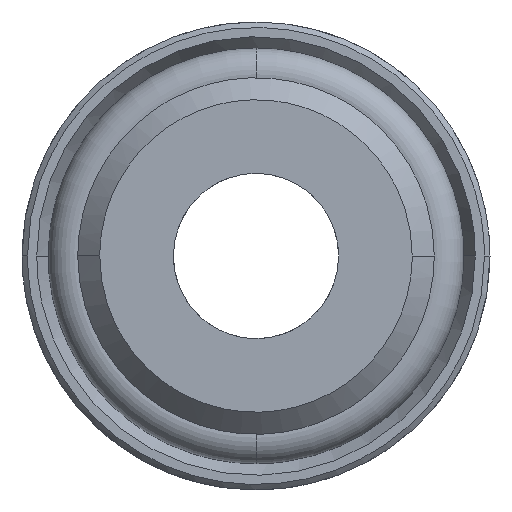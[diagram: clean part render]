
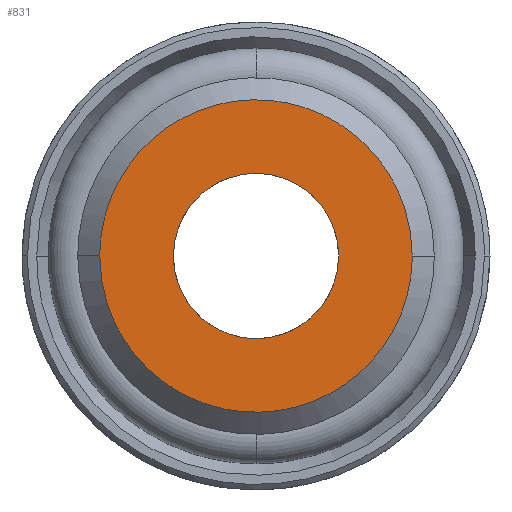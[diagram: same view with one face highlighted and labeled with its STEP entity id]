
A CAD part, front view. The second image highlights one B-rep face of the part: STEP entity #831.
In plain terms, the highlighted planar face has unit normal (0, -1, 0).
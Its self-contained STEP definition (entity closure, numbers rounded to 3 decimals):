
#16 = CARTESIAN_POINT ( 'NONE',  ( -2.619, 0., -1.515 ) ) ;
#26 = CARTESIAN_POINT ( 'NONE',  ( 3.486, 0., -4.539 ) ) ;
#39 = EDGE_CURVE ( 'NONE', #1634, #122, #1527, .T. ) ;
#98 = ORIENTED_EDGE ( 'NONE', *, *, #1683, .T. ) ;
#105 = CARTESIAN_POINT ( 'NONE',  ( -5.528, 0., 1.484 ) ) ;
#114 = CARTESIAN_POINT ( 'NONE',  ( -3., 0., 0. ) ) ;
#117 = CARTESIAN_POINT ( 'NONE',  ( -2.924, 0., 0.781 ) ) ;
#122 = VERTEX_POINT ( 'NONE', #2867 ) ;
#181 = CARTESIAN_POINT ( 'NONE',  ( -1.515, 0., 2.619 ) ) ;
#231 = CARTESIAN_POINT ( 'NONE',  ( -0.397, 0., -3. ) ) ;
#235 = CARTESIAN_POINT ( 'NONE',  ( 1.84, 0., 2.402 ) ) ;
#244 = CARTESIAN_POINT ( 'NONE',  ( 5.528, 0., 1.484 ) ) ;
#269 = CARTESIAN_POINT ( 'NONE',  ( 3., 0., -0.397 ) ) ;
#278 = CARTESIAN_POINT ( 'NONE',  ( 1.484, 0., -5.528 ) ) ;
#294 = CARTESIAN_POINT ( 'NONE',  ( 4.958, 0., -2.86 ) ) ;
#323 = CARTESIAN_POINT ( 'NONE',  ( 0.745, 0., 5.675 ) ) ;
#337 = CARTESIAN_POINT ( 'NONE',  ( -5.675, 0., 0.746 ) ) ;
#355 = CARTESIAN_POINT ( 'NONE',  ( -5.675, 0., 0. ) ) ;
#471 = CARTESIAN_POINT ( 'NONE',  ( -4.958, 0., -2.86 ) ) ;
#477 = CARTESIAN_POINT ( 'NONE',  ( -1.84, 0., -2.402 ) ) ;
#507 = CARTESIAN_POINT ( 'NONE',  ( 2.86, 0., 4.958 ) ) ;
#510 = CARTESIAN_POINT ( 'NONE',  ( -0.781, 0., -2.924 ) ) ;
#551 = CARTESIAN_POINT ( 'NONE',  ( 5.528, 0., -1.484 ) ) ;
#608 = CARTESIAN_POINT ( 'NONE',  ( -3., 0., 0. ) ) ;
#646 = CARTESIAN_POINT ( 'NONE',  ( -4.338, 0., 0. ) ) ;
#675 = CARTESIAN_POINT ( 'NONE',  ( 2.619, 0., 1.515 ) ) ;
#681 = FACE_OUTER_BOUND ( 'NONE', #3015, .T. ) ;
#691 = CARTESIAN_POINT ( 'NONE',  ( 3., 0., 0. ) ) ;
#697 = EDGE_CURVE ( 'NONE', #1249, #1024, #939, .T. ) ;
#705 = CARTESIAN_POINT ( 'NONE',  ( 1.515, 0., -2.619 ) ) ;
#717 = CARTESIAN_POINT ( 'NONE',  ( -5.675, 0., 0. ) ) ;
#724 = CARTESIAN_POINT ( 'NONE',  ( 2.402, 0., -1.84 ) ) ;
#742 = CARTESIAN_POINT ( 'NONE',  ( -3., 0., 0. ) ) ;
#831 = ADVANCED_FACE ( 'NONE', ( #1679, #681 ), #1920, .T. ) ;
#874 = CARTESIAN_POINT ( 'NONE',  ( -3.486, 0., 4.539 ) ) ;
#935 = CARTESIAN_POINT ( 'NONE',  ( -0.781, 0., 2.924 ) ) ;
#939 = B_SPLINE_CURVE_WITH_KNOTS ( 'NONE', 3,
 ( #2727, #2481, #244, #1241, #996, #1752, #507, #2498, #323, #1580, #1596, #1389, #874, #2587, #2856, #105, #337, #355 ),
 .UNSPECIFIED., .F., .F.,
 ( 4, 2, 2, 2, 2, 2, 2, 2, 4 ),
 ( 0.5, 0.563, 0.625, 0.688, 0.75, 0.813, 0.875, 0.938, 1. ),
 .UNSPECIFIED. ) ;
#952 = CARTESIAN_POINT ( 'NONE',  ( 1.515, 0., 2.62 ) ) ;
#967 = CARTESIAN_POINT ( 'NONE',  ( 0.781, 0., 2.924 ) ) ;
#996 = CARTESIAN_POINT ( 'NONE',  ( 4.539, 0., 3.486 ) ) ;
#1010 = CARTESIAN_POINT ( 'NONE',  ( -5.675, 0., 0. ) ) ;
#1024 = VERTEX_POINT ( 'NONE', #1010 ) ;
#1025 = CARTESIAN_POINT ( 'NONE',  ( 4.539, 0., -3.486 ) ) ;
#1125 = ORIENTED_EDGE ( 'NONE', *, *, #697, .T. ) ;
#1201 = CARTESIAN_POINT ( 'NONE',  ( 0.397, 0., 3. ) ) ;
#1241 = CARTESIAN_POINT ( 'NONE',  ( 4.958, 0., 2.86 ) ) ;
#1249 = VERTEX_POINT ( 'NONE', #2010 ) ;
#1266 = CARTESIAN_POINT ( 'NONE',  ( 0.397, 0., -3. ) ) ;
#1286 = ORIENTED_EDGE ( 'NONE', *, *, #3079, .T. ) ;
#1389 = CARTESIAN_POINT ( 'NONE',  ( -2.86, 0., 4.958 ) ) ;
#1498 = CARTESIAN_POINT ( 'NONE',  ( -5.675, 0., -0.745 ) ) ;
#1504 = CARTESIAN_POINT ( 'NONE',  ( -2.924, 0., -0.781 ) ) ;
#1527 = B_SPLINE_CURVE_WITH_KNOTS ( 'NONE', 3,
 ( #608, #2358, #117, #2965, #2195, #2471, #181, #935, #1707, #1201, #967, #952, #235, #2178, #675, #2931, #1933, #691 ),
 .UNSPECIFIED., .F., .F.,
 ( 4, 2, 2, 2, 2, 2, 2, 2, 4 ),
 ( 0., 0.063, 0.125, 0.188, 0.25, 0.313, 0.375, 0.438, 0.5 ),
 .UNSPECIFIED. ) ;
#1580 = CARTESIAN_POINT ( 'NONE',  ( -0.745, 0., 5.675 ) ) ;
#1596 = CARTESIAN_POINT ( 'NONE',  ( -1.484, 0., 5.528 ) ) ;
#1634 = VERTEX_POINT ( 'NONE', #114 ) ;
#1666 = AXIS2_PLACEMENT_3D ( 'NONE', #646, #2888, #2137 ) ;
#1679 = FACE_BOUND ( 'NONE', #2066, .T. ) ;
#1683 = EDGE_CURVE ( 'NONE', #122, #1634, #1800, .T. ) ;
#1688 = CARTESIAN_POINT ( 'NONE',  ( -1.515, 0., -2.62 ) ) ;
#1707 = CARTESIAN_POINT ( 'NONE',  ( -0.397, 0., 3. ) ) ;
#1749 = CARTESIAN_POINT ( 'NONE',  ( -0.745, 0., -5.675 ) ) ;
#1752 = CARTESIAN_POINT ( 'NONE',  ( 3.486, 0., 4.539 ) ) ;
#1754 = CARTESIAN_POINT ( 'NONE',  ( 2.924, 0., -0.781 ) ) ;
#1800 = B_SPLINE_CURVE_WITH_KNOTS ( 'NONE', 3,
 ( #2944, #269, #1754, #2747, #724, #3193, #705, #2009, #1266, #231, #510, #1688, #477, #2683, #16, #1504, #2502, #742 ),
 .UNSPECIFIED., .F., .F.,
 ( 4, 2, 2, 2, 2, 2, 2, 2, 4 ),
 ( 0.5, 0.563, 0.625, 0.688, 0.75, 0.813, 0.875, 0.938, 1. ),
 .UNSPECIFIED. ) ;
#1920 = PLANE ( 'NONE',  #1666 ) ;
#1933 = CARTESIAN_POINT ( 'NONE',  ( 3., 0., 0.397 ) ) ;
#1988 = CARTESIAN_POINT ( 'NONE',  ( -3.486, 0., -4.539 ) ) ;
#2009 = CARTESIAN_POINT ( 'NONE',  ( 0.781, 0., -2.924 ) ) ;
#2010 = CARTESIAN_POINT ( 'NONE',  ( 5.675, 0., 0. ) ) ;
#2066 = EDGE_LOOP ( 'NONE', ( #2382, #98 ) ) ;
#2137 = DIRECTION ( 'NONE',  ( 0., 0., -1. ) ) ;
#2178 = CARTESIAN_POINT ( 'NONE',  ( 2.402, 0., 1.84 ) ) ;
#2195 = CARTESIAN_POINT ( 'NONE',  ( -2.402, 0., 1.84 ) ) ;
#2269 = CARTESIAN_POINT ( 'NONE',  ( 2.86, 0., -4.958 ) ) ;
#2358 = CARTESIAN_POINT ( 'NONE',  ( -3., 0., 0.398 ) ) ;
#2382 = ORIENTED_EDGE ( 'NONE', *, *, #39, .T. ) ;
#2471 = CARTESIAN_POINT ( 'NONE',  ( -1.84, 0., 2.402 ) ) ;
#2481 = CARTESIAN_POINT ( 'NONE',  ( 5.675, 0., 0.745 ) ) ;
#2495 = CARTESIAN_POINT ( 'NONE',  ( 0.745, 0., -5.675 ) ) ;
#2498 = CARTESIAN_POINT ( 'NONE',  ( 1.484, 0., 5.528 ) ) ;
#2502 = CARTESIAN_POINT ( 'NONE',  ( -3., 0., -0.398 ) ) ;
#2587 = CARTESIAN_POINT ( 'NONE',  ( -4.539, 0., 3.486 ) ) ;
#2683 = CARTESIAN_POINT ( 'NONE',  ( -2.402, 0., -1.84 ) ) ;
#2709 = CARTESIAN_POINT ( 'NONE',  ( -5.528, 0., -1.484 ) ) ;
#2727 = CARTESIAN_POINT ( 'NONE',  ( 5.675, 0., 0. ) ) ;
#2747 = CARTESIAN_POINT ( 'NONE',  ( 2.62, 0., -1.515 ) ) ;
#2759 = CARTESIAN_POINT ( 'NONE',  ( -1.484, 0., -5.528 ) ) ;
#2800 = B_SPLINE_CURVE_WITH_KNOTS ( 'NONE', 3,
 ( #717, #1498, #2709, #471, #3221, #1988, #2991, #2759, #1749, #2495, #278, #2269, #26, #1025, #294, #551, #3083, #2853 ),
 .UNSPECIFIED., .F., .F.,
 ( 4, 2, 2, 2, 2, 2, 2, 2, 4 ),
 ( 0., 0.063, 0.125, 0.188, 0.25, 0.313, 0.375, 0.438, 0.5 ),
 .UNSPECIFIED. ) ;
#2853 = CARTESIAN_POINT ( 'NONE',  ( 5.675, 0., 0. ) ) ;
#2856 = CARTESIAN_POINT ( 'NONE',  ( -4.958, 0., 2.86 ) ) ;
#2867 = CARTESIAN_POINT ( 'NONE',  ( 3., 0., 0. ) ) ;
#2888 = DIRECTION ( 'NONE',  ( 0., -1., 0. ) ) ;
#2931 = CARTESIAN_POINT ( 'NONE',  ( 2.924, 0., 0.781 ) ) ;
#2944 = CARTESIAN_POINT ( 'NONE',  ( 3., 0., 0. ) ) ;
#2965 = CARTESIAN_POINT ( 'NONE',  ( -2.62, 0., 1.515 ) ) ;
#2991 = CARTESIAN_POINT ( 'NONE',  ( -2.86, 0., -4.958 ) ) ;
#3015 = EDGE_LOOP ( 'NONE', ( #1286, #1125 ) ) ;
#3079 = EDGE_CURVE ( 'NONE', #1024, #1249, #2800, .T. ) ;
#3083 = CARTESIAN_POINT ( 'NONE',  ( 5.675, 0., -0.745 ) ) ;
#3193 = CARTESIAN_POINT ( 'NONE',  ( 1.84, 0., -2.402 ) ) ;
#3221 = CARTESIAN_POINT ( 'NONE',  ( -4.539, 0., -3.486 ) ) ;
